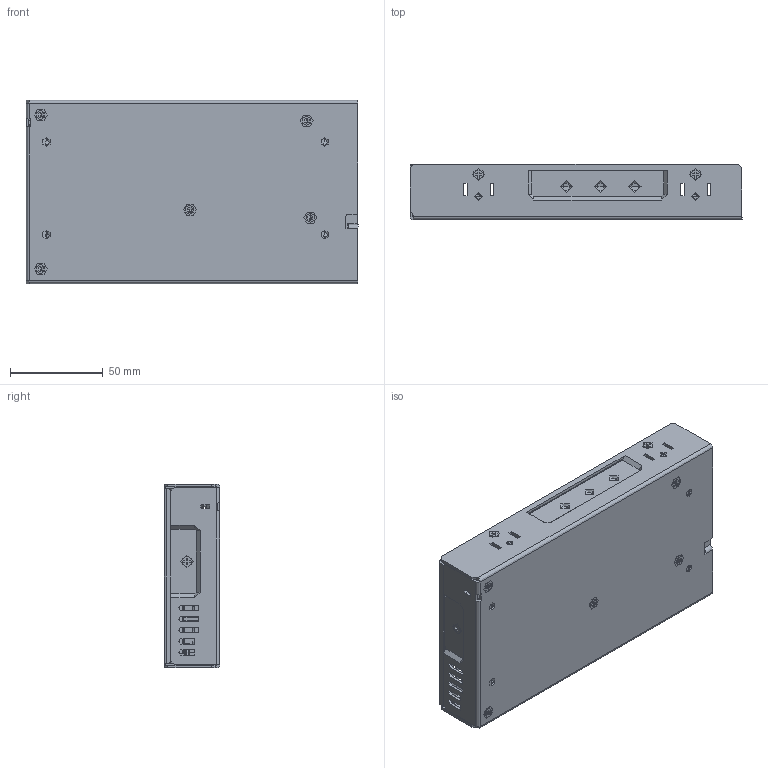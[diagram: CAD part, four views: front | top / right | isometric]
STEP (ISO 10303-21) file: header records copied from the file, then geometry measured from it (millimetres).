
FILE_DESCRIPTION (( 'STEP AP214' ), '1' );
FILE_NAME ('LCW200-C.STEP', '2021-08-31T15:35:04', ( '' ), ( '' ), 'SwSTEP 2.0', 'SolidWorks 2020', '' );
FILE_SCHEMA (( 'AUTOMOTIVE_DESIGN' ));
Length unit declared in the file: millimetre
Products named in the file (101): TH_5_1_1_1-1; DC49B-TERMINAL00_3_1_2_1_1_1_6; M40001_4_1_1_1_1_1_6-1; M3_MJLM_2_1_1_1_3; DC49B-TERMINAL00_3_1_2_1_1_1_4; M3X8_16_1_1_1-1; M40001_4_1_1_1_1_1_4-1; SCREW_5_1_1_1_1_1; M3X8_16_1_1_1; DC49B-TERMINAL00_3_1_2_1_1_1; M40001_4_1_1_1_1_1_2; DC49B-TERMINAL00_3_1_2_1_1_1_2-1; LCW200-C_ASM_2_ASM_1_ASM_1_ASM_1_1; LCW200-C_PCB_ASM_4_ASM_1_ASM_1_1; DC49B-TERMINAL00_3_1_2_1_1_1_3-1; OTHERS_ASM_6_ASM_1_ASM_1_1; DC49H-HOUSING0001_12_1_1_1_1_1; TH_5_1_1_1; DP_2_1_1_1-3; M40001_4_1_1_1_1_1_5; SCREW_CHASSIS_1_1_1_1; M4-7-75SCREW_5_1_1_1_1_1_6; M40001_4_1_1_1_1_1; M3X8_ASM_4_ASM_1_ASM_1_ASM_1-4_1; M40001_4_1_1_1_1_1_4; LED__1_1_1; DC49B-TERMINAL00_3_1_2_1_1_1_5-1; CHASSIS_LCW200-C_8_1_1_1; M40001_4_1_1_1_1_1_6; DC49B-TERMINAL00_3_1_2_1_1_1_1; SCREW_5_1_1_1_1_4; TH_5_1_1_1-3; M3X8_16_1_1_1-2; M40001_4_1_1_1_1_1_5-1; M40001_4_1_1_1_1_1_2-1; M3X8_16_1_1_1-4; M40001_4_1_1_1_1_1_3; M3X8_ASM_4_ASM_1_ASM_1_ASM_1-3_1; DC49B-TERMINAL00_3_1_2_1_1_1_5; M3X8_ASM_4_ASM_1_ASM_1_ASM_1-2_1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
Assembly tree (100 placements, depth 5):
  LCW200-C
    LCW200-C_CASE_ASM_2_ASM_1_ASM_1_1
      LCW200-C_ASM_2_ASM_1_ASM_1_ASM_1_1
        CHASSIS_LCW200-C_8_1_1_1
          CHASSIS_LCW200-C_8_1_1_1
          CHASSIS_LCW200-C_8_1_1_1-1
        SCREW_5_1_1_1_1
        SCREW_5_1_1_1_1_1
        SCREW_5_1_1_1_1_2
        SCREW_5_1_1_1_1_3
        SCREW_5_1_1_1_1_4
      COVER200_ASM_4_ASM_1_ASM_1_ASM__1
        COVER_200_3_1_1_1
        M3_MJLM_2_1_1_1
        M3_MJLM_2_1_1_1_1
        M3_MJLM_2_1_1_1_2
        M3_MJLM_2_1_1_1_3
    LCW200-C_PCB_ASM_4_ASM_1_ASM_1_1
      BOARD_3_1_1
      LED__1_1_1
      HDK_______1_1_1
      LCW200-C_CONN_ASM_6_ASM_1_ASM_1_AS_1
        DC49H-HOUSING0001_12_1_1_1_1_1
        M40001_4_1_1_1_1_1
          M40001_4_1_1_1_1_1
          M40001_4_1_1_1_1_1-1
        DC49B-TERMINAL00_3_1_2_1_1_1
          DC49B-TERMINAL00_3_1_2_1_1_1
          DC49B-TERMINAL00_3_1_2_1_1_1-1
        M4-7-75SCREW_5_1_1_1_1_1
        M40001_4_1_1_1_1_1_1
          M40001_4_1_1_1_1_1_1
          M40001_4_1_1_1_1_1_1-1
        DC49B-TERMINAL00_3_1_2_1_1_1_1
          DC49B-TERMINAL00_3_1_2_1_1_1_1
          DC49B-TERMINAL00_3_1_2_1_1_1_1-1
        M4-7-75SCREW_5_1_1_1_1_1_1
        M40001_4_1_1_1_1_1_2
          M40001_4_1_1_1_1_1_2
          M40001_4_1_1_1_1_1_2-1
        DC49B-TERMINAL00_3_1_2_1_1_1_2
          DC49B-TERMINAL00_3_1_2_1_1_1_2
          DC49B-TERMINAL00_3_1_2_1_1_1_2-1
        M4-7-75SCREW_5_1_1_1_1_1_2
        M40001_4_1_1_1_1_1_3
          M40001_4_1_1_1_1_1_3
          M40001_4_1_1_1_1_1_3-1
        DC49B-TERMINAL00_3_1_2_1_1_1_3
          DC49B-TERMINAL00_3_1_2_1_1_1_3
          DC49B-TERMINAL00_3_1_2_1_1_1_3-1
        M4-7-75SCREW_5_1_1_1_1_1_3
        M40001_4_1_1_1_1_1_4
          M40001_4_1_1_1_1_1_4
          M40001_4_1_1_1_1_1_4-1
        DC49B-TERMINAL00_3_1_2_1_1_1_4
          DC49B-TERMINAL00_3_1_2_1_1_1_4
          DC49B-TERMINAL00_3_1_2_1_1_1_4-1
        M4-7-75SCREW_5_1_1_1_1_1_4
        M40001_4_1_1_1_1_1_5
          M40001_4_1_1_1_1_1_5
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Bounding box: 179 x 30 x 99 mm (x, y, z)
Topology: 65 solids, 74 shells, 5812 faces, 17633 edges, 11922 vertices
Faces by surface type: plane 3145, cylinder 1953, bspline 376, cone 280, torus 58
Full cylindrical faces by diameter (mm): 2.85 x5, 3.5 x1
Entity records: 269736 total; most frequent: CARTESIAN_POINT 117484, ORIENTED_EDGE 35182, DIRECTION 24913, EDGE_CURVE 17609, VERTEX_POINT 11925, AXIS2_PLACEMENT_3D 8419, LINE 8075, VECTOR 8075
